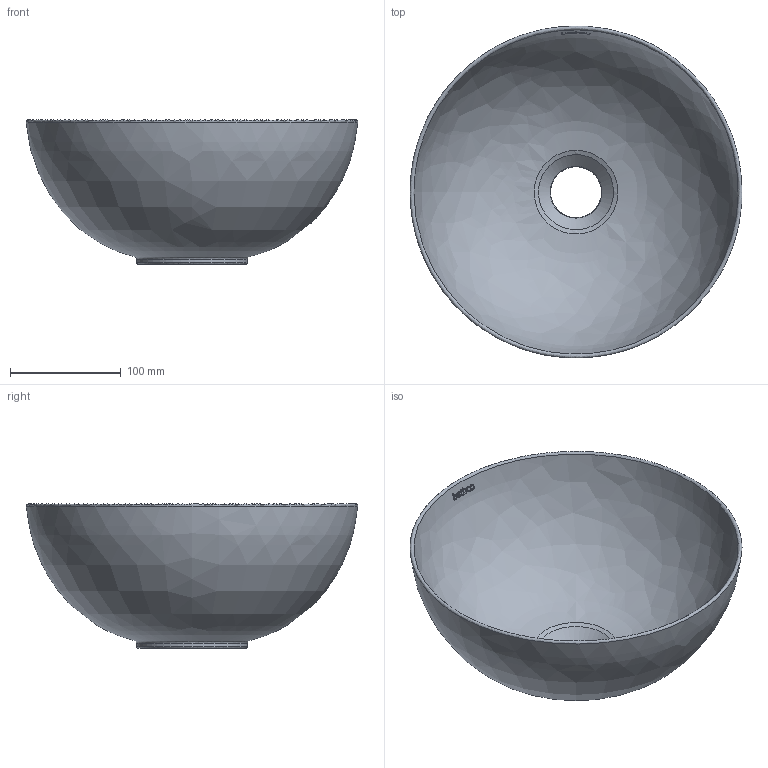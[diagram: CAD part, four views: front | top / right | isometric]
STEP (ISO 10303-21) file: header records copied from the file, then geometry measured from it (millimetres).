
FILE_DESCRIPTION(/* description */ (''),/* implementation_level */ '2;1');
FILE_NAME(/* name */ '4914_Dakar',/* time_stamp */ '2022-01-26T17:40:33+01:00',/* author */ (''),/* organization */ (''),/* preprocessor_version */ 'ST-DEVELOPER v16.5',/* originating_system */ '',/* authorisation */ '');
FILE_SCHEMA (('CONFIG_CONTROL_DESIGN'));
Length unit declared in the file: millimetre
Products named in the file (1): Document
Bounding box: 299.65 x 299.58 x 130 mm (x, y, z)
Volume: 1141496.1 mm3; surface area: 247126.1 mm2
Topology: 7 solids, 7 shells, 107 faces, 265 edges, 170 vertices
Faces by surface type: bspline 102, plane 3, cylinder 2
Full cylindrical faces by diameter (mm): 46 x1, 100 x1
Entity records: 6438 total; most frequent: CARTESIAN_POINT 4752, ORIENTED_EDGE 530, EDGE_CURVE 265, B_SPLINE_CURVE_WITH_KNOTS 204, VERTEX_POINT 170, EDGE_LOOP 113, ADVANCED_FACE 107, FACE_OUTER_BOUND 107
